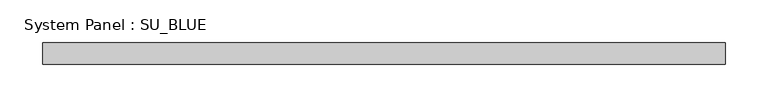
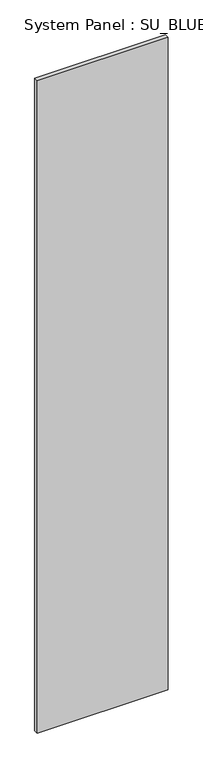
"""IFC4 building model written with IfcOpenShell, lengths in millimetres: plate geometry, System Panel : SU_BLUE."""

from ifc_helpers import new_model, si_unit, origin, origin_with_axes, place, context, project, spatial, polyline, outline, extrude, source, transform, mapped, element, save


def system_panel_su_blue_edec432c(model_context):
    return source(origin(), model_context, "Body", "SweptSolid", [
        extrude(outline(polyline([(399.4846123, 19.05), (-399.4846123, 19.05), (-399.4846123, 44.45), (399.4846123, 44.45), (399.4846123, 19.05)])), origin_with_axes(), (0.0, 0.0, 1.0), 4203.7),
    ])


if __name__ == "__main__":
    model = new_model("IFC4")
    model_context = context("Model", 3, world=origin())
    ifc_project = project(units=[si_unit("LENGTHUNIT", "METRE", prefix="MILLI")], contexts=[model_context])
    site = spatial("IfcSite", under=ifc_project)
    building = spatial("IfcBuilding", under=site)
    placement = place(None, origin())
    system_panel_su_blue_shape = system_panel_su_blue_edec432c(model_context)
    element("IfcPlate", 1, ObjectType="System Panel : SU_BLUE", at=placement, inside=building, context=model_context, shape_type="MappedRepresentation", body=[
        mapped(system_panel_su_blue_shape, transform((0.0, 0.0, 0.0), x_axis=(1.0, 0.0, 0.0), y_axis=(0.0, 1.0, 0.0), z_axis=(0.0, 0.0, 1.0))),
    ])
    save(model, "model.ifc")
